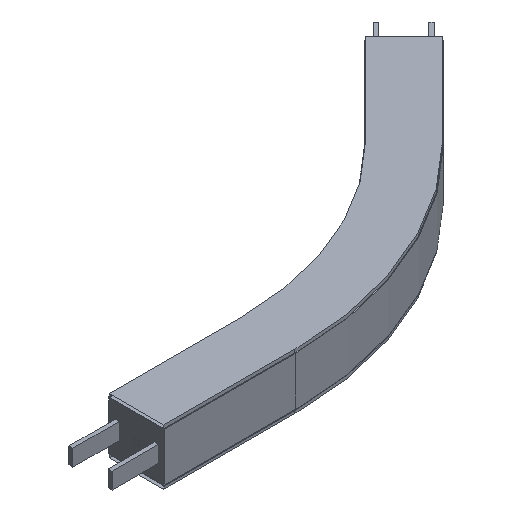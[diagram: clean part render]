
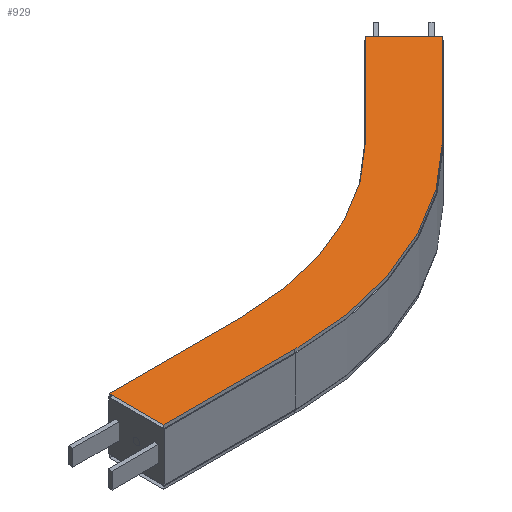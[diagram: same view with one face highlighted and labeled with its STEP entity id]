
A CAD part, isometric view. The second image highlights one B-rep face of the part: STEP entity #929.
In plain terms, the highlighted planar face has unit normal (0, 0, -1).
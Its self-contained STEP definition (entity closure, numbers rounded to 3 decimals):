
#61=CIRCLE('',#1011,458.5);
#62=CIRCLE('',#1013,541.5);
#119=FACE_OUTER_BOUND('',#171,.T.);
#171=EDGE_LOOP('',(#794,#795,#796,#797,#798,#799,#800,#801));
#253=LINE('',#1463,#363);
#255=LINE('',#1469,#365);
#262=LINE('',#1490,#372);
#267=LINE('',#1499,#377);
#268=LINE('',#1501,#378);
#269=LINE('',#1502,#379);
#363=VECTOR('',#1198,10.);
#365=VECTOR('',#1202,10.);
#372=VECTOR('',#1223,10.);
#377=VECTOR('',#1232,10.);
#378=VECTOR('',#1235,10.);
#379=VECTOR('',#1236,10.);
#453=VERTEX_POINT('',#1457);
#455=VERTEX_POINT('',#1461);
#456=VERTEX_POINT('',#1465);
#458=VERTEX_POINT('',#1468);
#461=VERTEX_POINT('',#1475);
#462=VERTEX_POINT('',#1480);
#464=VERTEX_POINT('',#1486);
#467=VERTEX_POINT('',#1497);
#565=EDGE_CURVE('',#453,#455,#253,.T.);
#567=EDGE_CURVE('',#456,#458,#255,.T.);
#572=EDGE_CURVE('',#461,#453,#61,.T.);
#574=EDGE_CURVE('',#462,#456,#62,.T.);
#578=EDGE_CURVE('',#464,#461,#262,.T.);
#583=EDGE_CURVE('',#467,#462,#267,.T.);
#584=EDGE_CURVE('',#467,#464,#268,.T.);
#585=EDGE_CURVE('',#455,#458,#269,.T.);
#794=ORIENTED_EDGE('',*,*,#584,.T.);
#795=ORIENTED_EDGE('',*,*,#578,.T.);
#796=ORIENTED_EDGE('',*,*,#572,.T.);
#797=ORIENTED_EDGE('',*,*,#565,.T.);
#798=ORIENTED_EDGE('',*,*,#585,.T.);
#799=ORIENTED_EDGE('',*,*,#567,.F.);
#800=ORIENTED_EDGE('',*,*,#574,.F.);
#801=ORIENTED_EDGE('',*,*,#583,.F.);
#879=PLANE('',#1018);
#929=ADVANCED_FACE('',(#119),#879,.F.);
#1011=AXIS2_PLACEMENT_3D('',#1478,#1210,#1211);
#1013=AXIS2_PLACEMENT_3D('',#1483,#1215,#1216);
#1018=AXIS2_PLACEMENT_3D('',#1500,#1233,#1234);
#1198=DIRECTION('',(0.707,0.707,0.));
#1202=DIRECTION('',(0.707,0.707,0.));
#1210=DIRECTION('center_axis',(0.,0.,
1.));
#1211=DIRECTION('ref_axis',(0.,-1.,0.));
#1215=DIRECTION('center_axis',(0.,0.,
1.));
#1216=DIRECTION('ref_axis',(0.,-1.,0.));
#1223=DIRECTION('',(1.,0.,0.));
#1232=DIRECTION('',(1.,0.,0.));
#1233=DIRECTION('center_axis',(0.,0.,1.));
#1234=DIRECTION('ref_axis',(0.,-1.,0.));
#1235=DIRECTION('',(0.,1.,0.));
#1236=DIRECTION('',(0.707,-0.707,0.));
#1457=CARTESIAN_POINT('',(524.208,175.792,42.5));
#1461=CARTESIAN_POINT('',(665.63,317.213,42.5));
#1463=CARTESIAN_POINT('',(524.208,175.792,42.5));
#1465=CARTESIAN_POINT('',(582.898,117.102,42.5));
#1468=CARTESIAN_POINT('',(724.32,258.523,42.5));
#1469=CARTESIAN_POINT('',(582.898,117.102,42.5));
#1475=CARTESIAN_POINT('',(200.,41.5,42.5));
#1478=CARTESIAN_POINT('Origin',(200.,500.,42.5));
#1480=CARTESIAN_POINT('',(200.,-41.5,42.5));
#1483=CARTESIAN_POINT('Origin',(200.,500.,42.5));
#1486=CARTESIAN_POINT('',(0.,41.5,42.5));
#1490=CARTESIAN_POINT('',(0.,41.5,42.5));
#1497=CARTESIAN_POINT('',(0.,-41.5,42.5));
#1499=CARTESIAN_POINT('',(0.,-41.5,42.5));
#1500=CARTESIAN_POINT('Origin',(0.,41.5,42.5));
#1501=CARTESIAN_POINT('',(0.,-41.5,42.5));
#1502=CARTESIAN_POINT('',(724.32,258.523,42.5));
